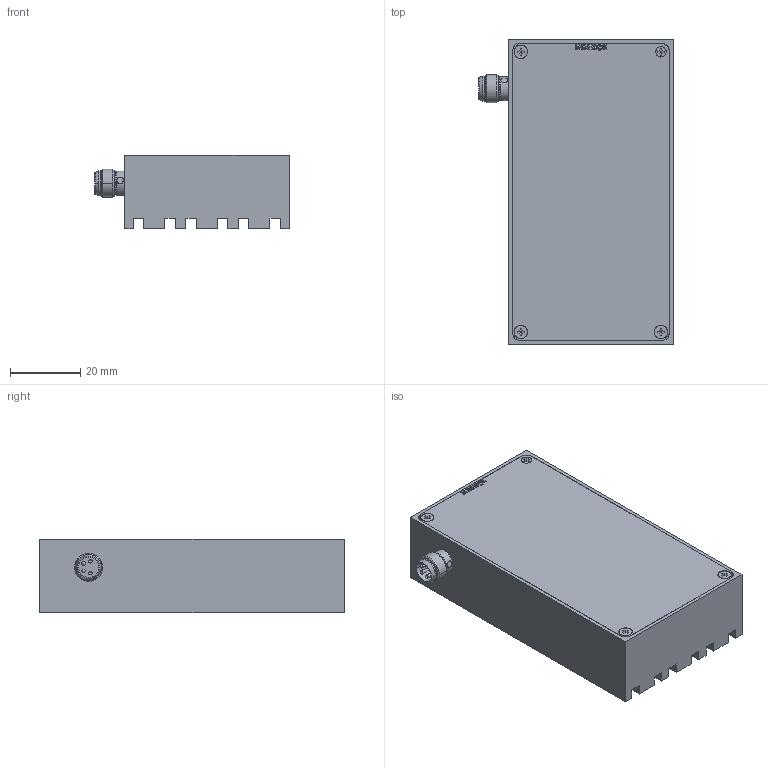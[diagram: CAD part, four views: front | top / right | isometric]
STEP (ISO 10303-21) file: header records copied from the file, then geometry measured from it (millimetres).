
FILE_DESCRIPTION(('STEP AP214'),'1');
FILE_NAME('TL-HL-40-80-Kundenmodell.stp','2019-06-03T14:49:25',(' '),(' '),'Spatial InterOp 3D',' ',' ');
FILE_SCHEMA(('AUTOMOTIVE_DESIGN { 1 0 10303 214 1 1 1 1 }'));
Length unit declared in the file: millimetre
Products named in the file (1): Volumenkörper
Bounding box: 55.5 x 87 x 21 mm (x, y, z)
Volume: 81193.3 mm3; surface area: 21293.7 mm2
Topology: 1 solids, 9 shells, 448 faces, 1142 edges, 731 vertices
Faces by surface type: plane 208, cylinder 150, cone 58, extrusion 20, torus 8, sphere 4
Entity records: 18783 total; most frequent: CARTESIAN_POINT 4448, ORIENTED_EDGE 2236, DIRECTION 2157, EDGE_CURVE 1118, VERTEX_POINT 731, AXIS2_PLACEMENT_3D 729, VECTOR 699, LINE 679
